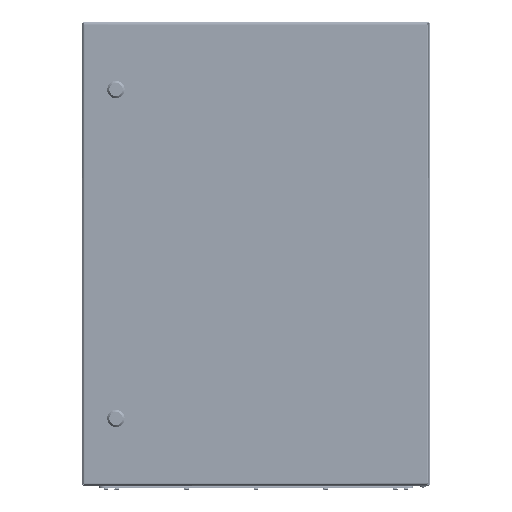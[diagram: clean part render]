
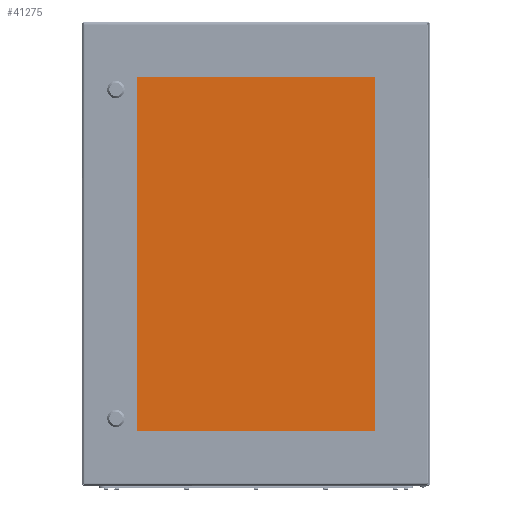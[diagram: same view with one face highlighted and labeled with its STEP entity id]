
A CAD part, top view. The second image highlights one B-rep face of the part: STEP entity #41275.
In plain terms, the highlighted planar face has unit normal (0, 0, 1).
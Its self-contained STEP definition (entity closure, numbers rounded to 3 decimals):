
#1195 = CIRCLE ( 'NONE', #49406, 1. ) ;
#2924 = CARTESIAN_POINT ( 'NONE',  ( -214., 314., 2. ) ) ;
#3342 = CIRCLE ( 'NONE', #32993, 1. ) ;
#4830 = DIRECTION ( 'NONE',  ( 0., 0., 1. ) ) ;
#7897 = DIRECTION ( 'NONE',  ( -1., 0., 0. ) ) ;
#8211 = DIRECTION ( 'NONE',  ( 0., -1., 0. ) ) ;
#9249 = EDGE_CURVE ( 'NONE', #37520, #42729, #36242, .T. ) ;
#9272 = VERTEX_POINT ( 'NONE', #20076 ) ;
#11314 = AXIS2_PLACEMENT_3D ( 'NONE', #26493, #30725, #30465 ) ;
#11802 = CARTESIAN_POINT ( 'NONE',  ( -215., -314., 2. ) ) ;
#12177 = CARTESIAN_POINT ( 'NONE',  ( 215., -314., 2. ) ) ;
#12286 = CARTESIAN_POINT ( 'NONE',  ( -214., -314., 2. ) ) ;
#12662 = DIRECTION ( 'NONE',  ( 0., 1., 0. ) ) ;
#12919 = LINE ( 'NONE', #45816, #18566 ) ;
#14753 = CARTESIAN_POINT ( 'NONE',  ( 214., -314., 2. ) ) ;
#15336 = ORIENTED_EDGE ( 'NONE', *, *, #51058, .T. ) ;
#15825 = EDGE_CURVE ( 'NONE', #30857, #29295, #12919, .T. ) ;
#16100 = CARTESIAN_POINT ( 'NONE',  ( 215., -315., 2. ) ) ;
#16375 = ORIENTED_EDGE ( 'NONE', *, *, #49080, .T. ) ;
#16699 = LINE ( 'NONE', #43835, #40651 ) ;
#17909 = VECTOR ( 'NONE', #7897, 1000. ) ;
#18566 = VECTOR ( 'NONE', #12662, 1000. ) ;
#18844 = EDGE_CURVE ( 'NONE', #9272, #40783, #16699, .T. ) ;
#20076 = CARTESIAN_POINT ( 'NONE',  ( -215., 314., 2. ) ) ;
#20480 = CARTESIAN_POINT ( 'NONE',  ( 214., -315., 2. ) ) ;
#22843 = DIRECTION ( 'NONE',  ( 1., 0., 0. ) ) ;
#23321 = VERTEX_POINT ( 'NONE', #45919 ) ;
#23821 = CARTESIAN_POINT ( 'NONE',  ( 215., 315., 2. ) ) ;
#25240 = DIRECTION ( 'NONE',  ( 0., 0., 1. ) ) ;
#25928 = VERTEX_POINT ( 'NONE', #52016 ) ;
#26062 = CARTESIAN_POINT ( 'NONE',  ( 215., 314., 2. ) ) ;
#26493 = CARTESIAN_POINT ( 'NONE',  ( 214., 314., 2. ) ) ;
#26558 = DIRECTION ( 'NONE',  ( 0., 0., 1. ) ) ;
#27669 = ORIENTED_EDGE ( 'NONE', *, *, #15825, .T. ) ;
#29212 = FACE_OUTER_BOUND ( 'NONE', #50742, .T. ) ;
#29295 = VERTEX_POINT ( 'NONE', #26062 ) ;
#30465 = DIRECTION ( 'NONE',  ( 1., 0., 0. ) ) ;
#30667 = DIRECTION ( 'NONE',  ( 0., 0., 1. ) ) ;
#30725 = DIRECTION ( 'NONE',  ( 0., 0., 1. ) ) ;
#30736 = AXIS2_PLACEMENT_3D ( 'NONE', #37152, #25240, #37418 ) ;
#30839 = CIRCLE ( 'NONE', #40160, 1. ) ;
#30857 = VERTEX_POINT ( 'NONE', #12177 ) ;
#31716 = ORIENTED_EDGE ( 'NONE', *, *, #9249, .T. ) ;
#32993 = AXIS2_PLACEMENT_3D ( 'NONE', #12286, #4830, #40123 ) ;
#33012 = ORIENTED_EDGE ( 'NONE', *, *, #43761, .T. ) ;
#35509 = ORIENTED_EDGE ( 'NONE', *, *, #38989, .T. ) ;
#36242 = LINE ( 'NONE', #16100, #36646 ) ;
#36646 = VECTOR ( 'NONE', #51926, 1000. ) ;
#37152 = CARTESIAN_POINT ( 'NONE',  ( 0., 0., 2. ) ) ;
#37418 = DIRECTION ( 'NONE',  ( 1., 0., 0. ) ) ;
#37520 = VERTEX_POINT ( 'NONE', #48099 ) ;
#38501 = ORIENTED_EDGE ( 'NONE', *, *, #49511, .T. ) ;
#38989 = EDGE_CURVE ( 'NONE', #40783, #37520, #3342, .T. ) ;
#40123 = DIRECTION ( 'NONE',  ( 1., 0., 0. ) ) ;
#40160 = AXIS2_PLACEMENT_3D ( 'NONE', #2924, #26558, #22843 ) ;
#40651 = VECTOR ( 'NONE', #8211, 1000. ) ;
#40783 = VERTEX_POINT ( 'NONE', #11802 ) ;
#41275 = ADVANCED_FACE ( 'NONE', ( #29212 ), #45414, .T. ) ;
#42729 = VERTEX_POINT ( 'NONE', #20480 ) ;
#43139 = DIRECTION ( 'NONE',  ( 1., 0., 0. ) ) ;
#43761 = EDGE_CURVE ( 'NONE', #25928, #23321, #47454, .T. ) ;
#43835 = CARTESIAN_POINT ( 'NONE',  ( -215., -315., 2. ) ) ;
#45414 = PLANE ( 'NONE',  #30736 ) ;
#45816 = CARTESIAN_POINT ( 'NONE',  ( 215., -315., 2. ) ) ;
#45919 = CARTESIAN_POINT ( 'NONE',  ( -214., 315., 2. ) ) ;
#47454 = LINE ( 'NONE', #23821, #17909 ) ;
#48099 = CARTESIAN_POINT ( 'NONE',  ( -214., -315., 2. ) ) ;
#49080 = EDGE_CURVE ( 'NONE', #23321, #9272, #30839, .T. ) ;
#49406 = AXIS2_PLACEMENT_3D ( 'NONE', #14753, #30667, #43139 ) ;
#49511 = EDGE_CURVE ( 'NONE', #29295, #25928, #51134, .T. ) ;
#50520 = ORIENTED_EDGE ( 'NONE', *, *, #18844, .T. ) ;
#50742 = EDGE_LOOP ( 'NONE', ( #50520, #35509, #31716, #15336, #27669, #38501, #33012, #16375 ) ) ;
#51058 = EDGE_CURVE ( 'NONE', #42729, #30857, #1195, .T. ) ;
#51134 = CIRCLE ( 'NONE', #11314, 1. ) ;
#51926 = DIRECTION ( 'NONE',  ( 1., 0., 0. ) ) ;
#52016 = CARTESIAN_POINT ( 'NONE',  ( 214., 315., 2. ) ) ;
